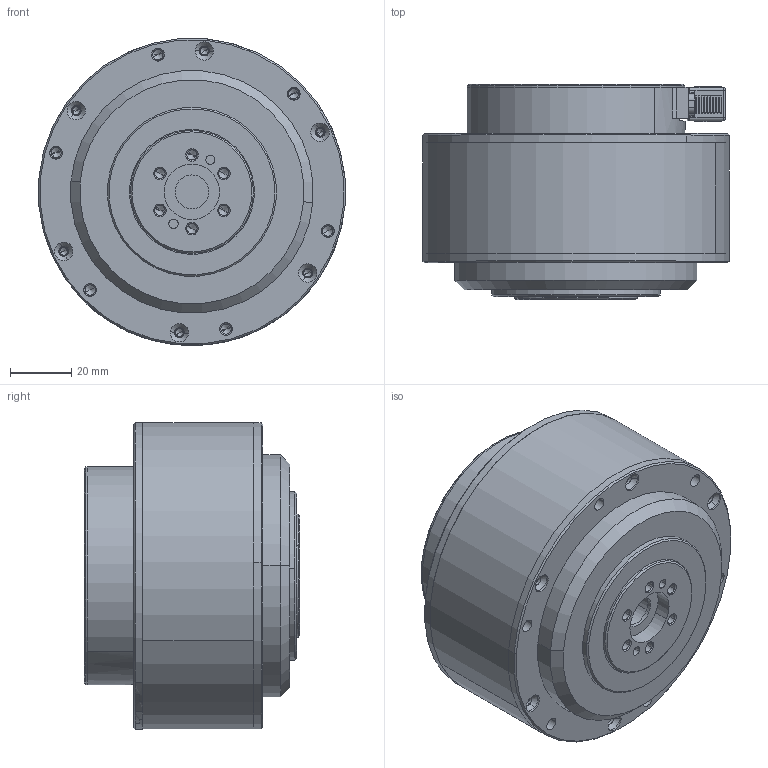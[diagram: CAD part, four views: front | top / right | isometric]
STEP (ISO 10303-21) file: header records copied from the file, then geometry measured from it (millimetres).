
FILE_DESCRIPTION (( 'STEP AP203' ), '1' );
FILE_NAME ('AKA10-9.STEP', '2024-12-03T09:22:27', ( 'Windows User' ), ( 'P R C' ), 'SwSTEP 2.0', 'SolidWorks 2022', '' );
FILE_SCHEMA (( 'CONFIG_CONTROL_DESIGN' ));
Length unit declared in the file: millimetre
Products named in the file (22): AKA10-9-外壳; MANIFOLD_SOLID_BREP_264.stp; C0207000185-母头护线套-A; MANIFOLD_SOLID_BREP_270.stp; MANIFOLD_SOLID_BREP_263.stp; MANIFOLD_SOLID_BREP_265.stp; MANIFOLD_SOLID_BREP_287.stp; AKA10-9-前机壳; AKA10-9; AKA10-9-盖板; ADMI0CB41306IMH5_ASM.stp; AKA10-9-钢圈; MANIFOLD_SOLID_BREP_267.stp; MANIFOLD_SOLID_BREP_268.stp; AKA10-9压板; MANIFOLD_SOLID_BREP_269.stp; C0207000184-接插件母头-A; AKA10-9-后机壳; AKA10-9-下行星架; C0207000184-接插件母头-A.stp; MANIFOLD_SOLID_BREP_266.stp; CRBT405A
Assembly tree (21 placements, depth 5):
  AKA10-9
    AKA10-9-下行星架
    AKA10-9-前机壳
    AKA10-9-钢圈
    AKA10-9-外壳
    CRBT405A
    AKA10-9-后机壳
    AKA10-9压板
    AKA10-9-盖板
    C0207000184-接插件母头-A
      C0207000184-接插件母头-A.stp
        ADMI0CB41306IMH5_ASM.stp
          MANIFOLD_SOLID_BREP_263.stp
          MANIFOLD_SOLID_BREP_264.stp
          MANIFOLD_SOLID_BREP_265.stp
          MANIFOLD_SOLID_BREP_266.stp
          MANIFOLD_SOLID_BREP_267.stp
          MANIFOLD_SOLID_BREP_268.stp
          MANIFOLD_SOLID_BREP_269.stp
          MANIFOLD_SOLID_BREP_270.stp
          MANIFOLD_SOLID_BREP_287.stp
    C0207000185-母头护线套-A
Bounding box: 99.81 x 70 x 99.87 mm (x, y, z)
Volume: 148864.6 mm3; surface area: 119417.8 mm2
Topology: 18 solids, 18 shells, 1453 faces, 3756 edges, 2286 vertices
Faces by surface type: cylinder 724, plane 342, cone 240, sphere 103, bspline 32, torus 12
Entity records: 51913 total; most frequent: CARTESIAN_POINT 13905, DIRECTION 8078, ORIENTED_EDGE 7068, EDGE_CURVE 3534, AXIS2_PLACEMENT_3D 3261, VERTEX_POINT 2252, CIRCLE 1813, EDGE_LOOP 1742
